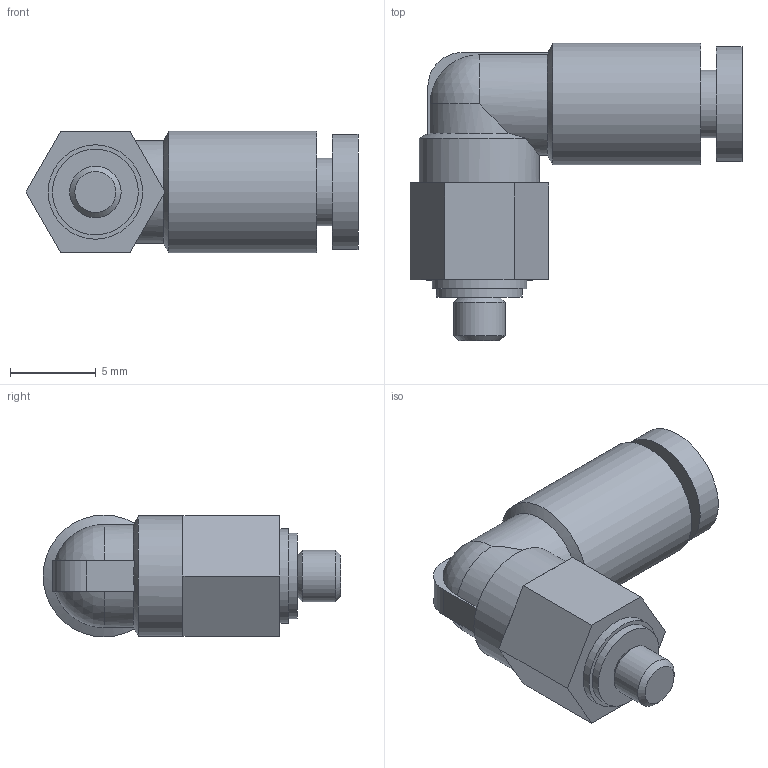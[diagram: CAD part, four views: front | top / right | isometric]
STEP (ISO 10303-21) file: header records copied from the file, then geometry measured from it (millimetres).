
FILE_DESCRIPTION(/* description */ ('STEP AP214'),/* implementation_level */ '2;1');
FILE_NAME(/* name */ 'KQ2L23-M3G',/* time_stamp */ '2023-03-09T07:26:24+01:00',/* author */ ('License CC BY-ND 4.0'),/* organization */ ('CADENAS'),/* preprocessor_version */ 'ST-DEVELOPER v18.102',/* originating_system */ 'PARTsolutions',/* authorisation */ ' ');
FILE_SCHEMA (('AUTOMOTIVE_DESIGN {1 0 10303 214 3 1 1}'));
Length unit declared in the file: millimetre
Products named in the file (1): KQ2L23-M3G
Bounding box: 19.34 x 17.35 x 7.1 mm (x, y, z)
Volume: 850.7 mm3; surface area: 862 mm2
Topology: 1 solids, 1 shells, 42 faces, 92 edges, 58 vertices
Faces by surface type: plane 24, cylinder 12, cone 4, sphere 2
Full cylindrical faces by diameter (mm): 3 x1, 3.2 x1, 3.95 x1, 5 x1, 5.5 x1, 6.7 x1, 7 x1, 7.1 x1
Entity records: 1121 total; most frequent: CARTESIAN_POINT 208, DIRECTION 192, ORIENTED_EDGE 158, EDGE_CURVE 79, AXIS2_PLACEMENT_3D 79, EDGE_LOOP 59, FACE_BOUND 59, VERTEX_POINT 56
